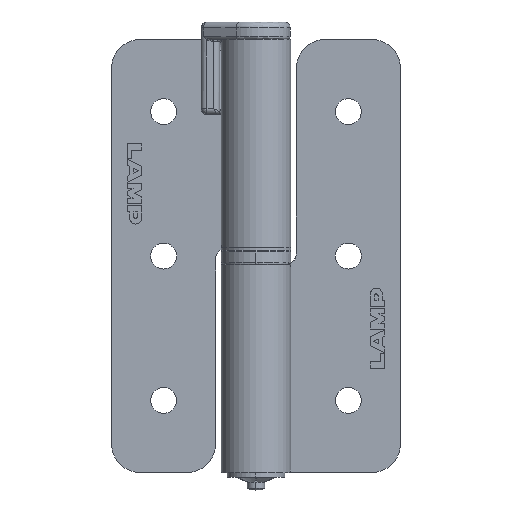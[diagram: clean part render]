
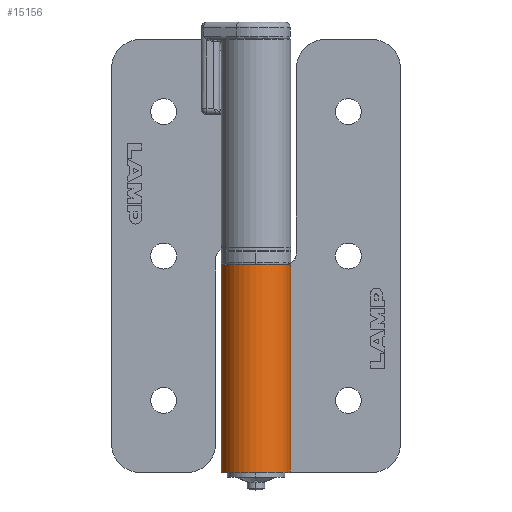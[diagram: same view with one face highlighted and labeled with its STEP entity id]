
A CAD part, top view. The second image highlights one B-rep face of the part: STEP entity #15156.
In plain terms, the highlighted cylindrical face has radius 6 mm (diameter 12 mm), a partial arc.
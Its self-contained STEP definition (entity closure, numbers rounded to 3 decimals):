
#12 = EDGE_CURVE ( 'NONE', #8028, #3956, #8054, .T. ) ;
#511 = AXIS2_PLACEMENT_3D ( 'NONE', #10398, #2320, #4956 ) ;
#1404 = ORIENTED_EDGE ( 'NONE', *, *, #1411, .F. ) ;
#1411 = EDGE_CURVE ( 'NONE', #8406, #14577, #2349, .T. ) ;
#1653 = FACE_OUTER_BOUND ( 'NONE', #16023, .T. ) ;
#1912 = CARTESIAN_POINT ( 'NONE',  ( -38.922, 2.883, 1.375 ) ) ;
#1932 = LINE ( 'NONE', #16701, #16327 ) ;
#2010 = CARTESIAN_POINT ( 'NONE',  ( -38.922, -2.773, 3.375 ) ) ;
#2125 = CARTESIAN_POINT ( 'NONE',  ( -2.922, 2.883, -4.625 ) ) ;
#2320 = DIRECTION ( 'NONE',  ( -1., 0., 0. ) ) ;
#2349 = CIRCLE ( 'NONE', #11060, 6. ) ;
#2716 = VECTOR ( 'NONE', #8236, 1000. ) ;
#2966 = CYLINDRICAL_SURFACE ( 'NONE', #4937, 6. ) ;
#3082 = CARTESIAN_POINT ( 'NONE',  ( -38.842, -2.979, 2.665 ) ) ;
#3225 = DIRECTION ( 'NONE',  ( 0., 0., -1. ) ) ;
#3271 = CARTESIAN_POINT ( 'NONE',  ( -3.686, -3.117, 1.375 ) ) ;
#3576 = CARTESIAN_POINT ( 'NONE',  ( -3.686, -3.117, 1.375 ) ) ;
#3677 = CARTESIAN_POINT ( 'NONE',  ( -38.922, 2.883, 1.375 ) ) ;
#3956 = VERTEX_POINT ( 'NONE', #10094 ) ;
#4937 = AXIS2_PLACEMENT_3D ( 'NONE', #1912, #8405, #3225 ) ;
#4956 = DIRECTION ( 'NONE',  ( 0., 0., -1. ) ) ;
#5145 = CARTESIAN_POINT ( 'NONE',  ( -2.922, -2.773, 3.375 ) ) ;
#5253 = DIRECTION ( 'NONE',  ( -1., 0., 0. ) ) ;
#5724 = CARTESIAN_POINT ( 'NONE',  ( -38.665, -3.069, 2.147 ) ) ;
#6402 = CARTESIAN_POINT ( 'NONE',  ( -2.922, -2.836, 3.198 ) ) ;
#6492 = CARTESIAN_POINT ( 'NONE',  ( -2.922, -2.773, 3.375 ) ) ;
#6904 = ORIENTED_EDGE ( 'NONE', *, *, #16342, .F. ) ;
#6981 = CARTESIAN_POINT ( 'NONE',  ( -38.922, 2.883, -4.625 ) ) ;
#7123 = CARTESIAN_POINT ( 'NONE',  ( -38.922, -2.836, 3.198 ) ) ;
#7515 = CARTESIAN_POINT ( 'NONE',  ( -3.001, -2.978, 2.669 ) ) ;
#8028 = VERTEX_POINT ( 'NONE', #3271 ) ;
#8054 = LINE ( 'NONE', #13430, #2716 ) ;
#8236 = DIRECTION ( 'NONE',  ( -1., 0., 0. ) ) ;
#8345 = CARTESIAN_POINT ( 'NONE',  ( -38.283, -3.117, 1.514 ) ) ;
#8391 = EDGE_CURVE ( 'NONE', #14577, #9348, #1932, .T. ) ;
#8405 = DIRECTION ( 'NONE',  ( 1., 0., 0. ) ) ;
#8406 = VERTEX_POINT ( 'NONE', #2010 ) ;
#8434 = CARTESIAN_POINT ( 'NONE',  ( -38.393, -3.112, 1.663 ) ) ;
#8934 = B_SPLINE_CURVE_WITH_KNOTS ( 'NONE', 3,
 ( #5145, #6402, #17031, #7515, #15877, #10418, #15617, #15791, #14210, #3576 ),
 .UNSPECIFIED., .F., .F.,
 ( 4, 2, 2, 2, 4 ),
 ( 0., 0.001, 0.001, 0.002, 0.002 ),
 .UNSPECIFIED. ) ;
#9348 = VERTEX_POINT ( 'NONE', #2125 ) ;
#9641 = EDGE_CURVE ( 'NONE', #3956, #8406, #17327, .T. ) ;
#9814 = ORIENTED_EDGE ( 'NONE', *, *, #9641, .F. ) ;
#10013 = CARTESIAN_POINT ( 'NONE',  ( -38.795, -3.015, 2.49 ) ) ;
#10039 = ORIENTED_EDGE ( 'NONE', *, *, #12, .F. ) ;
#10094 = CARTESIAN_POINT ( 'NONE',  ( -38.158, -3.117, 1.375 ) ) ;
#10398 = CARTESIAN_POINT ( 'NONE',  ( -2.922, 2.883, 1.375 ) ) ;
#10418 = CARTESIAN_POINT ( 'NONE',  ( -3.179, -3.069, 2.147 ) ) ;
#10583 = CIRCLE ( 'NONE', #511, 6. ) ;
#11060 = AXIS2_PLACEMENT_3D ( 'NONE', #3677, #5253, #13427 ) ;
#11172 = CARTESIAN_POINT ( 'NONE',  ( -38.922, -2.773, 3.375 ) ) ;
#12743 = CARTESIAN_POINT ( 'NONE',  ( -38.906, -2.89, 3.019 ) ) ;
#13107 = VERTEX_POINT ( 'NONE', #6492 ) ;
#13427 = DIRECTION ( 'NONE',  ( 0., 0., -1. ) ) ;
#13430 = CARTESIAN_POINT ( 'NONE',  ( -20.922, -3.117, 1.375 ) ) ;
#13725 = CARTESIAN_POINT ( 'NONE',  ( -38.584, -3.088, 1.978 ) ) ;
#13890 = DIRECTION ( 'NONE',  ( 1., 0., 0. ) ) ;
#14210 = CARTESIAN_POINT ( 'NONE',  ( -3.561, -3.117, 1.514 ) ) ;
#14356 = ORIENTED_EDGE ( 'NONE', *, *, #8391, .F. ) ;
#14577 = VERTEX_POINT ( 'NONE', #6981 ) ;
#15156 = ADVANCED_FACE ( 'NONE', ( #1653 ), #2966, .T. ) ;
#15617 = CARTESIAN_POINT ( 'NONE',  ( -3.259, -3.088, 1.982 ) ) ;
#15791 = CARTESIAN_POINT ( 'NONE',  ( -3.45, -3.112, 1.666 ) ) ;
#15877 = CARTESIAN_POINT ( 'NONE',  ( -3.049, -3.014, 2.491 ) ) ;
#16023 = EDGE_LOOP ( 'NONE', ( #10039, #6904, #16181, #14356, #1404, #9814 ) ) ;
#16181 = ORIENTED_EDGE ( 'NONE', *, *, #16800, .T. ) ;
#16327 = VECTOR ( 'NONE', #13890, 1000. ) ;
#16342 = EDGE_CURVE ( 'NONE', #13107, #8028, #8934, .T. ) ;
#16617 = CARTESIAN_POINT ( 'NONE',  ( -38.158, -3.117, 1.375 ) ) ;
#16701 = CARTESIAN_POINT ( 'NONE',  ( -1.422, 2.883, -4.625 ) ) ;
#16800 = EDGE_CURVE ( 'NONE', #13107, #9348, #10583, .T. ) ;
#17031 = CARTESIAN_POINT ( 'NONE',  ( -2.938, -2.889, 3.022 ) ) ;
#17327 = B_SPLINE_CURVE_WITH_KNOTS ( 'NONE', 3,
 ( #16617, #8345, #8434, #13725, #5724, #10013, #3082, #12743, #7123, #11172 ),
 .UNSPECIFIED., .F., .F.,
 ( 4, 2, 2, 2, 4 ),
 ( 0., 0.001, 0.001, 0.002, 0.002 ),
 .UNSPECIFIED. ) ;
